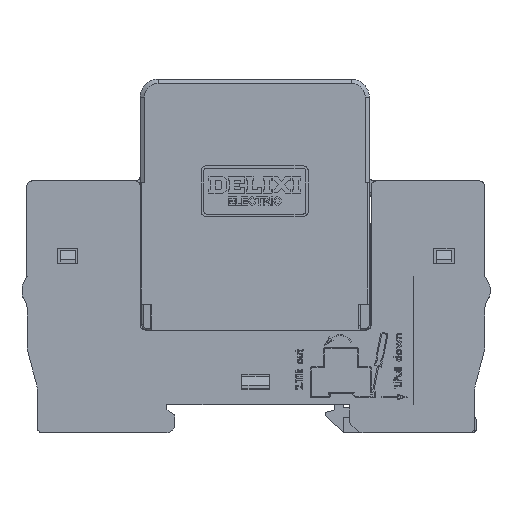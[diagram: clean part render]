
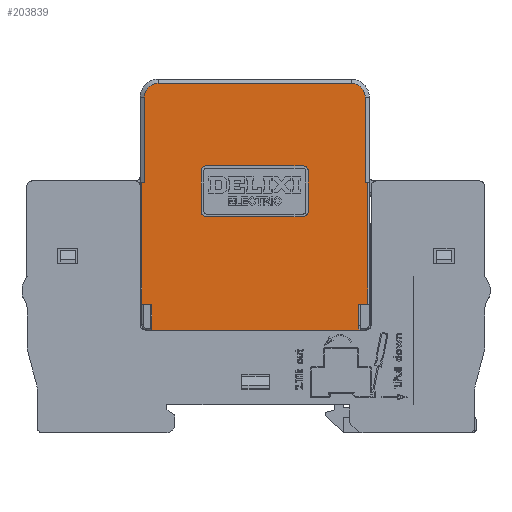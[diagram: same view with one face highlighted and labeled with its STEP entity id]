
A CAD part, front view. The second image highlights one B-rep face of the part: STEP entity #203839.
In plain terms, the highlighted planar face has unit normal (0, -1, 0).
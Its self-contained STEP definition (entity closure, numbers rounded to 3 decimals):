
#191608=DIRECTION('',(-1.,0.,0.));
#191609=VECTOR('',#191608,0.5);
#191610=CARTESIAN_POINT('',(0.8,-17.9,29.));
#191611=LINE('',#191610,#191609);
#191612=CARTESIAN_POINT('',(3.5,-17.9,45.8));
#191613=DIRECTION('',(0.,-1.,0.));
#191614=DIRECTION('',(0.,0.,1.));
#191615=AXIS2_PLACEMENT_3D('',#191612,#191613,#191614);
#191617=CARTESIAN_POINT('',(41.5,-17.9,45.8));
#191618=DIRECTION('',(0.,-1.,0.));
#191619=DIRECTION('',(1.,0.,0.));
#191620=AXIS2_PLACEMENT_3D('',#191617,#191618,#191619);
#191622=DIRECTION('',(1.,0.,0.));
#191623=VECTOR('',#191622,1.8);
#191624=CARTESIAN_POINT('',(42.9,-17.9,5.1));
#191625=LINE('',#191624,#191623);
#191626=DIRECTION('',(0.,0.,-1.));
#191627=VECTOR('',#191626,5.1);
#191628=CARTESIAN_POINT('',(2.1,-17.9,5.1));
#191629=LINE('',#191628,#191627);
#191630=DIRECTION('',(0.,0.,1.));
#191631=VECTOR('',#191630,8.);
#191632=CARTESIAN_POINT('',(12.,-17.9,23.3));
#191633=LINE('',#191632,#191631);
#191634=CARTESIAN_POINT('',(13.,-17.9,23.3));
#191635=DIRECTION('',(0.,1.,0.));
#191636=DIRECTION('',(0.,0.,-1.));
#191637=AXIS2_PLACEMENT_3D('',#191634,#191635,#191636);
#191639=DIRECTION('',(-1.,0.,0.));
#191640=VECTOR('',#191639,19.);
#191641=CARTESIAN_POINT('',(32.,-17.9,22.3));
#191642=LINE('',#191641,#191640);
#191643=CARTESIAN_POINT('',(32.,-17.9,23.3));
#191644=DIRECTION('',(0.,1.,0.));
#191645=DIRECTION('',(1.,0.,0.));
#191646=AXIS2_PLACEMENT_3D('',#191643,#191644,#191645);
#191648=CARTESIAN_POINT('',(32.,-17.9,31.3));
#191649=DIRECTION('',(0.,1.,0.));
#191650=DIRECTION('',(0.,0.,1.));
#191651=AXIS2_PLACEMENT_3D('',#191648,#191649,#191650);
#191653=CARTESIAN_POINT('',(13.,-17.9,31.3));
#191654=DIRECTION('',(0.,1.,0.));
#191655=DIRECTION('',(-1.,0.,0.));
#191656=AXIS2_PLACEMENT_3D('',#191653,#191654,#191655);
#196945=DIRECTION('',(1.,0.,0.));
#196946=VECTOR('',#196945,38.);
#196947=CARTESIAN_POINT('',(3.5,-17.9,48.5));
#196948=LINE('',#196947,#196946);
#196966=DIRECTION('',(0.,0.,-1.));
#196967=VECTOR('',#196966,16.8);
#196968=CARTESIAN_POINT('',(44.2,-17.9,45.8));
#196969=LINE('',#196968,#196967);
#196974=DIRECTION('',(1.,0.,0.));
#196975=VECTOR('',#196974,0.5);
#196976=CARTESIAN_POINT('',(44.2,-17.9,29.));
#196977=LINE('',#196976,#196975);
#196987=DIRECTION('',(0.,0.,-1.));
#196988=VECTOR('',#196987,23.9);
#196989=CARTESIAN_POINT('',(44.7,-17.9,29.));
#196990=LINE('',#196989,#196988);
#197016=DIRECTION('',(-1.,0.,0.));
#197017=VECTOR('',#197016,40.8);
#197018=CARTESIAN_POINT('',(42.9,-17.9,0.));
#197019=LINE('',#197018,#197017);
#197040=DIRECTION('',(-1.,0.,0.));
#197041=VECTOR('',#197040,1.8);
#197042=CARTESIAN_POINT('',(2.1,-17.9,5.1));
#197043=LINE('',#197042,#197041);
#197081=DIRECTION('',(0.,0.,1.));
#197082=VECTOR('',#197081,23.9);
#197083=CARTESIAN_POINT('',(0.3,-17.9,5.1));
#197084=LINE('',#197083,#197082);
#197085=DIRECTION('',(0.,0.,-1.));
#197086=VECTOR('',#197085,5.1);
#197087=CARTESIAN_POINT('',(42.9,-17.9,5.1));
#197088=LINE('',#197087,#197086);
#197105=DIRECTION('',(0.,0.,1.));
#197106=VECTOR('',#197105,16.8);
#197107=CARTESIAN_POINT('',(0.8,-17.9,29.));
#197108=LINE('',#197107,#197106);
#198034=DIRECTION('',(-1.,0.,0.));
#198035=VECTOR('',#198034,19.);
#198036=CARTESIAN_POINT('',(32.,-17.9,32.3));
#198037=LINE('',#198036,#198035);
#198046=DIRECTION('',(0.,0.,1.));
#198047=VECTOR('',#198046,8.);
#198048=CARTESIAN_POINT('',(33.,-17.9,23.3));
#198049=LINE('',#198048,#198047);
#200830=CARTESIAN_POINT('',(0.8,-17.9,29.));
#200831=CARTESIAN_POINT('',(0.3,-17.9,29.));
#200832=VERTEX_POINT('',#200830);
#200833=VERTEX_POINT('',#200831);
#200834=CARTESIAN_POINT('',(0.3,-17.9,5.1));
#200835=VERTEX_POINT('',#200834);
#200836=CARTESIAN_POINT('',(2.1,-17.9,5.1));
#200837=VERTEX_POINT('',#200836);
#200838=CARTESIAN_POINT('',(2.1,-17.9,0.));
#200839=VERTEX_POINT('',#200838);
#200840=CARTESIAN_POINT('',(42.9,-17.9,0.));
#200841=VERTEX_POINT('',#200840);
#200842=CARTESIAN_POINT('',(42.9,-17.9,5.1));
#200843=VERTEX_POINT('',#200842);
#200844=CARTESIAN_POINT('',(44.7,-17.9,5.1));
#200845=VERTEX_POINT('',#200844);
#200846=CARTESIAN_POINT('',(44.7,-17.9,29.));
#200847=VERTEX_POINT('',#200846);
#200848=CARTESIAN_POINT('',(44.2,-17.9,29.));
#200849=VERTEX_POINT('',#200848);
#200850=CARTESIAN_POINT('',(44.2,-17.9,45.8));
#200851=VERTEX_POINT('',#200850);
#200852=CARTESIAN_POINT('',(41.5,-17.9,48.5));
#200853=VERTEX_POINT('',#200852);
#200854=CARTESIAN_POINT('',(3.5,-17.9,48.5));
#200855=VERTEX_POINT('',#200854);
#200856=CARTESIAN_POINT('',(0.8,-17.9,45.8));
#200857=VERTEX_POINT('',#200856);
#200858=CARTESIAN_POINT('',(12.,-17.9,23.3));
#200859=CARTESIAN_POINT('',(12.,-17.9,31.3));
#200860=VERTEX_POINT('',#200858);
#200861=VERTEX_POINT('',#200859);
#200862=CARTESIAN_POINT('',(13.,-17.9,32.3));
#200863=VERTEX_POINT('',#200862);
#200864=CARTESIAN_POINT('',(32.,-17.9,32.3));
#200865=VERTEX_POINT('',#200864);
#200866=CARTESIAN_POINT('',(33.,-17.9,31.3));
#200867=VERTEX_POINT('',#200866);
#200868=CARTESIAN_POINT('',(33.,-17.9,23.3));
#200869=VERTEX_POINT('',#200868);
#200870=CARTESIAN_POINT('',(32.,-17.9,22.3));
#200871=VERTEX_POINT('',#200870);
#200872=CARTESIAN_POINT('',(13.,-17.9,22.3));
#200873=VERTEX_POINT('',#200872);
#203786=CARTESIAN_POINT('',(0.,-17.9,0.));
#203787=DIRECTION('',(0.,-1.,0.));
#203788=DIRECTION('',(0.,0.,-1.));
#203789=AXIS2_PLACEMENT_3D('',#203786,#203787,#203788);
#203790=PLANE('',#203789);
#203792=ORIENTED_EDGE('',*,*,#203791,.F.);
#203794=ORIENTED_EDGE('',*,*,#203793,.T.);
#203796=ORIENTED_EDGE('',*,*,#203795,.F.);
#203798=ORIENTED_EDGE('',*,*,#203797,.T.);
#203800=ORIENTED_EDGE('',*,*,#203799,.F.);
#203802=ORIENTED_EDGE('',*,*,#203801,.T.);
#203804=ORIENTED_EDGE('',*,*,#203803,.T.);
#203806=ORIENTED_EDGE('',*,*,#203805,.T.);
#203808=ORIENTED_EDGE('',*,*,#203807,.F.);
#203810=ORIENTED_EDGE('',*,*,#203809,.T.);
#203812=ORIENTED_EDGE('',*,*,#203811,.T.);
#203814=ORIENTED_EDGE('',*,*,#203813,.F.);
#203816=ORIENTED_EDGE('',*,*,#203815,.T.);
#203818=ORIENTED_EDGE('',*,*,#203817,.T.);
#203819=EDGE_LOOP('',(#203792,#203794,#203796,#203798,#203800,#203802,#203804,
#203806,#203808,#203810,#203812,#203814,#203816,#203818));
#203820=FACE_OUTER_BOUND('',#203819,.F.);
#203822=ORIENTED_EDGE('',*,*,#203821,.F.);
#203824=ORIENTED_EDGE('',*,*,#203823,.F.);
#203826=ORIENTED_EDGE('',*,*,#203825,.F.);
#203828=ORIENTED_EDGE('',*,*,#203827,.F.);
#203830=ORIENTED_EDGE('',*,*,#203829,.T.);
#203832=ORIENTED_EDGE('',*,*,#203831,.F.);
#203834=ORIENTED_EDGE('',*,*,#203833,.T.);
#203836=ORIENTED_EDGE('',*,*,#203835,.F.);
#203837=EDGE_LOOP('',(#203822,#203824,#203826,#203828,#203830,#203832,#203834,
#203836));
#203838=FACE_BOUND('',#203837,.F.);
#203839=ADVANCED_FACE('',(#203820,#203838),#203790,.T.);
#191616=CIRCLE('',#191615,2.7);
#191621=CIRCLE('',#191620,2.7);
#191638=CIRCLE('',#191637,1.);
#191647=CIRCLE('',#191646,1.);
#191652=CIRCLE('',#191651,1.);
#191657=CIRCLE('',#191656,1.);
#203791=EDGE_CURVE('',#200832,#200833,#191611,.T.);
#203793=EDGE_CURVE('',#200832,#200857,#197108,.T.);
#203795=EDGE_CURVE('',#200855,#200857,#191616,.T.);
#203797=EDGE_CURVE('',#200855,#200853,#196948,.T.);
#203799=EDGE_CURVE('',#200851,#200853,#191621,.T.);
#203801=EDGE_CURVE('',#200851,#200849,#196969,.T.);
#203803=EDGE_CURVE('',#200849,#200847,#196977,.T.);
#203805=EDGE_CURVE('',#200847,#200845,#196990,.T.);
#203807=EDGE_CURVE('',#200843,#200845,#191625,.T.);
#203809=EDGE_CURVE('',#200843,#200841,#197088,.T.);
#203811=EDGE_CURVE('',#200841,#200839,#197019,.T.);
#203813=EDGE_CURVE('',#200837,#200839,#191629,.T.);
#203815=EDGE_CURVE('',#200837,#200835,#197043,.T.);
#203817=EDGE_CURVE('',#200835,#200833,#197084,.T.);
#203821=EDGE_CURVE('',#200860,#200861,#191633,.T.);
#203823=EDGE_CURVE('',#200873,#200860,#191638,.T.);
#203825=EDGE_CURVE('',#200871,#200873,#191642,.T.);
#203827=EDGE_CURVE('',#200869,#200871,#191647,.T.);
#203829=EDGE_CURVE('',#200869,#200867,#198049,.T.);
#203831=EDGE_CURVE('',#200865,#200867,#191652,.T.);
#203833=EDGE_CURVE('',#200865,#200863,#198037,.T.);
#203835=EDGE_CURVE('',#200861,#200863,#191657,.T.);
